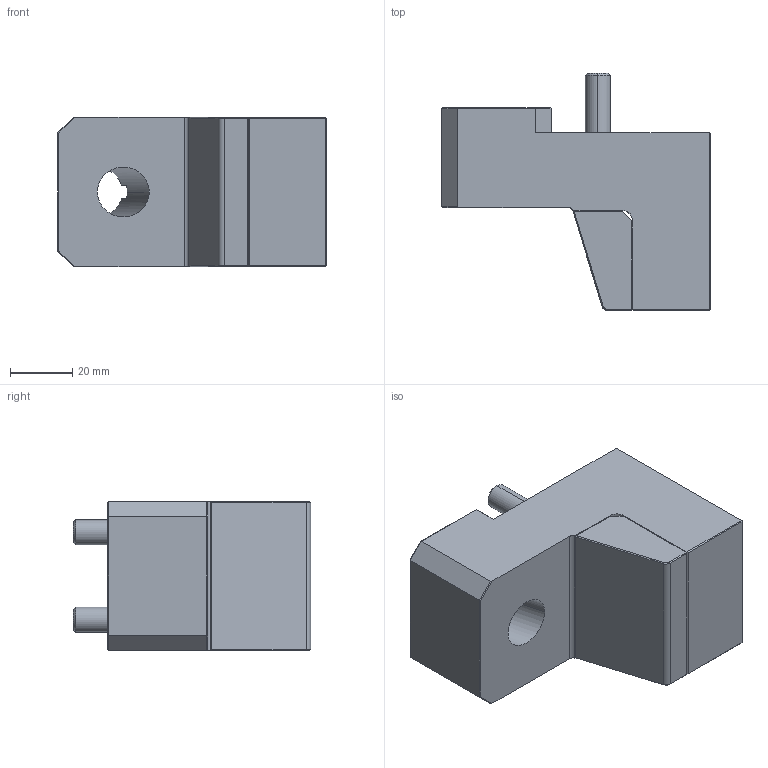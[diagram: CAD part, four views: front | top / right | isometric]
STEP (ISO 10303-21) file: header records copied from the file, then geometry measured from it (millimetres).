
FILE_DESCRIPTION (( 'STEP AP214' ), '1' );
FILE_NAME ('CG864857.STEP', '2013-06-12T09:36:50', ( '' ), ( '' ), 'SwSTEP 2.0', 'SolidWorks 2011', '' );
FILE_SCHEMA (( 'AUTOMOTIVE_DESIGN' ));
Length unit declared in the file: millimetre
Products named in the file (5): CG864857; 9CG864857; 3IMAN10X1,5; socket head cap screw_din_DIN 912 M8 x 35 --- 35N; SC193248
Assembly tree (5 placements, depth 2):
  CG864857
    SC193248
    3IMAN10X1,5
    socket head cap screw_din_DIN 912 M8 x 35 --- 35N  x2
    9CG864857
Bounding box: 86 x 76 x 48 mm (x, y, z)
Volume: 159051 mm3; surface area: 34031.3 mm2
Topology: 5 solids, 5 shells, 151 faces, 339 edges, 201 vertices
Faces by surface type: plane 95, cylinder 36, cone 12, torus 8
Entity records: 3676 total; most frequent: DIRECTION 615, CARTESIAN_POINT 592, ORIENTED_EDGE 554, EDGE_CURVE 277, AXIS2_PLACEMENT_3D 211, VECTOR 193, LINE 193, VERTEX_POINT 168
